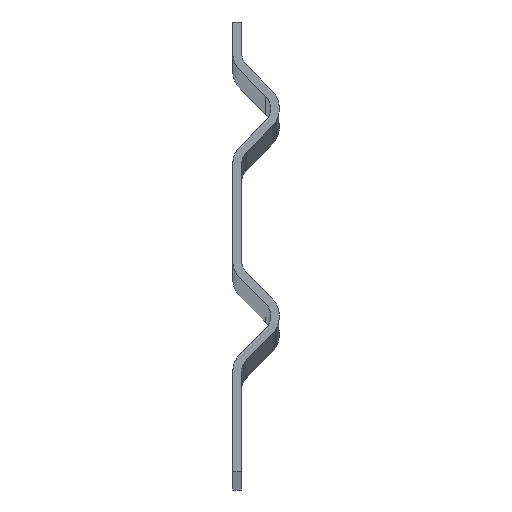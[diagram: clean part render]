
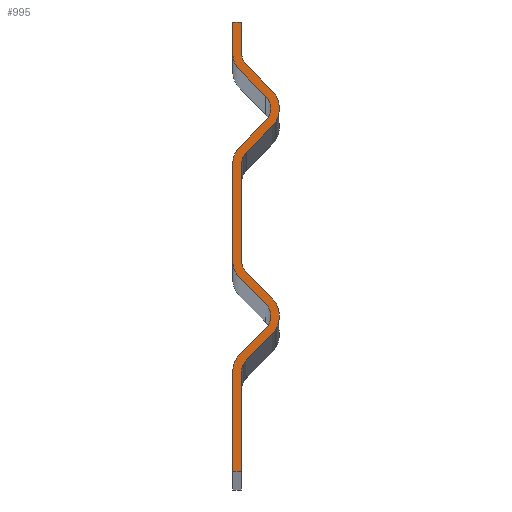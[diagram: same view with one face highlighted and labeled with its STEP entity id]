
A CAD part, top view. The second image highlights one B-rep face of the part: STEP entity #995.
In plain terms, the highlighted planar face has unit normal (0, 0, 1).
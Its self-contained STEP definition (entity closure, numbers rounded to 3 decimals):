
#73=CARTESIAN_POINT('',(0.,28.822,3000.0));
#74=VERTEX_POINT('',#73);
#75=CARTESIAN_POINT('',(2.197,34.126,3000.0));
#76=VERTEX_POINT('',#75);
#77=CARTESIAN_POINT('',(7.5,28.822,3000.0));
#78=DIRECTION('',(0.0,0.0,-1.));
#79=DIRECTION('',(0.707,-0.707,0.0));
#80=AXIS2_PLACEMENT_3D('',#77,#78,#79);
#81=CIRCLE('',#80,7.5);
#82=EDGE_CURVE('',#74,#76,#81,.T.);
#115=CARTESIAN_POINT('',(9.536,41.464,3000.0));
#116=VERTEX_POINT('',#115);
#117=CARTESIAN_POINT('',(2.197,34.126,3000.0));
#118=DIRECTION('',(0.707,0.707,0.0));
#119=VECTOR('',#118,10.379);
#120=LINE('',#117,#119);
#121=EDGE_CURVE('',#76,#116,#120,.T.);
#146=CARTESIAN_POINT('',(9.536,48.536,3000.0));
#147=VERTEX_POINT('',#146);
#148=CARTESIAN_POINT('',(6.,45.0,3000.0));
#149=DIRECTION('',(0.0,0.0,1.));
#150=DIRECTION('',(0.707,-0.707,0.0));
#151=AXIS2_PLACEMENT_3D('',#148,#149,#150);
#152=CIRCLE('',#151,5.);
#153=EDGE_CURVE('',#116,#147,#152,.T.);
#179=CARTESIAN_POINT('',(2.197,55.874,3000.0));
#180=VERTEX_POINT('',#179);
#181=CARTESIAN_POINT('',(9.536,48.536,3000.0));
#182=DIRECTION('',(-0.707,0.707,0.0));
#183=VECTOR('',#182,10.379);
#184=LINE('',#181,#183);
#185=EDGE_CURVE('',#147,#180,#184,.T.);
#210=CARTESIAN_POINT('',(0.,61.178,3000.0));
#211=VERTEX_POINT('',#210);
#212=CARTESIAN_POINT('',(7.5,61.178,3000.0));
#213=DIRECTION('',(0.0,0.0,-1.0));
#214=DIRECTION('',(1.0,0.0,0.0));
#215=AXIS2_PLACEMENT_3D('',#212,#213,#214);
#216=CIRCLE('',#215,7.5);
#217=EDGE_CURVE('',#180,#211,#216,.T.);
#243=CARTESIAN_POINT('',(0.,88.822,3000.0));
#244=VERTEX_POINT('',#243);
#245=CARTESIAN_POINT('',(0.,61.178,3000.0));
#246=DIRECTION('',(0.0,1.0,0.0));
#247=VECTOR('',#246,27.645);
#248=LINE('',#245,#247);
#249=EDGE_CURVE('',#211,#244,#248,.T.);
#274=CARTESIAN_POINT('',(2.197,94.126,3000.0));
#275=VERTEX_POINT('',#274);
#276=CARTESIAN_POINT('',(7.5,88.822,3000.0));
#277=DIRECTION('',(0.0,0.0,-1.0));
#278=DIRECTION('',(0.707,-0.707,0.0));
#279=AXIS2_PLACEMENT_3D('',#276,#277,#278);
#280=CIRCLE('',#279,7.5);
#281=EDGE_CURVE('',#244,#275,#280,.T.);
#307=CARTESIAN_POINT('',(9.536,101.464,3000.0));
#308=VERTEX_POINT('',#307);
#309=CARTESIAN_POINT('',(2.197,94.126,3000.0));
#310=DIRECTION('',(0.707,0.707,0.0));
#311=VECTOR('',#310,10.379);
#312=LINE('',#309,#311);
#313=EDGE_CURVE('',#275,#308,#312,.T.);
#338=CARTESIAN_POINT('',(9.536,108.536,3000.0));
#339=VERTEX_POINT('',#338);
#340=CARTESIAN_POINT('',(6.,105.0,3000.0));
#341=DIRECTION('',(0.0,0.0,1.0));
#342=DIRECTION('',(0.707,-0.707,0.0));
#343=AXIS2_PLACEMENT_3D('',#340,#341,#342);
#344=CIRCLE('',#343,5.0);
#345=EDGE_CURVE('',#308,#339,#344,.T.);
#371=CARTESIAN_POINT('',(2.197,115.874,3000.0));
#372=VERTEX_POINT('',#371);
#373=CARTESIAN_POINT('',(9.536,108.536,3000.0));
#374=DIRECTION('',(-0.707,0.707,0.0));
#375=VECTOR('',#374,10.379);
#376=LINE('',#373,#375);
#377=EDGE_CURVE('',#339,#372,#376,.T.);
#402=CARTESIAN_POINT('',(0.,121.178,3000.0));
#403=VERTEX_POINT('',#402);
#404=CARTESIAN_POINT('',(7.5,121.178,3000.0));
#405=DIRECTION('',(0.0,0.0,-1.0));
#406=DIRECTION('',(1.0,0.0,0.0));
#407=AXIS2_PLACEMENT_3D('',#404,#405,#406);
#408=CIRCLE('',#407,7.5);
#409=EDGE_CURVE('',#372,#403,#408,.T.);
#435=CARTESIAN_POINT('',(0.0,130.0,3000.0));
#436=VERTEX_POINT('',#435);
#437=CARTESIAN_POINT('',(0.,121.178,3000.0));
#438=DIRECTION('',(0.0,1.0,0.0));
#439=VECTOR('',#438,8.822);
#440=LINE('',#437,#439);
#441=EDGE_CURVE('',#403,#436,#440,.T.);
#466=CARTESIAN_POINT('',(2.5,130.0,3000.0));
#467=VERTEX_POINT('',#466);
#468=CARTESIAN_POINT('',(0.0,130.0,3000.0));
#469=DIRECTION('',(1.0,0.0,0.0));
#470=VECTOR('',#469,2.5);
#471=LINE('',#468,#470);
#472=EDGE_CURVE('',#436,#467,#471,.T.);
#497=CARTESIAN_POINT('',(2.5,121.178,3000.0));
#498=VERTEX_POINT('',#497);
#499=CARTESIAN_POINT('',(2.5,130.0,3000.0));
#500=DIRECTION('',(0.0,-1.0,0.0));
#501=VECTOR('',#500,8.822);
#502=LINE('',#499,#501);
#503=EDGE_CURVE('',#467,#498,#502,.T.);
#528=CARTESIAN_POINT('',(3.964,117.642,3000.0));
#529=VERTEX_POINT('',#528);
#530=CARTESIAN_POINT('',(7.5,121.178,3000.0));
#531=DIRECTION('',(0.0,0.0,1.0));
#532=DIRECTION('',(-1.0,0.0,0.0));
#533=AXIS2_PLACEMENT_3D('',#530,#531,#532);
#534=CIRCLE('',#533,5.0);
#535=EDGE_CURVE('',#498,#529,#534,.T.);
#561=CARTESIAN_POINT('',(11.303,110.303,3000.0));
#562=VERTEX_POINT('',#561);
#563=CARTESIAN_POINT('',(3.964,117.642,3000.0));
#564=DIRECTION('',(0.707,-0.707,0.0));
#565=VECTOR('',#564,10.379);
#566=LINE('',#563,#565);
#567=EDGE_CURVE('',#529,#562,#566,.T.);
#592=CARTESIAN_POINT('',(11.303,99.697,3000.0));
#593=VERTEX_POINT('',#592);
#594=CARTESIAN_POINT('',(6.,105.0,3000.0));
#595=DIRECTION('',(0.0,0.0,-1.0));
#596=DIRECTION('',(-0.707,0.707,0.0));
#597=AXIS2_PLACEMENT_3D('',#594,#595,#596);
#598=CIRCLE('',#597,7.5);
#599=EDGE_CURVE('',#562,#593,#598,.T.);
#625=CARTESIAN_POINT('',(3.964,92.358,3000.0));
#626=VERTEX_POINT('',#625);
#627=CARTESIAN_POINT('',(11.303,99.697,3000.0));
#628=DIRECTION('',(-0.707,-0.707,0.0));
#629=VECTOR('',#628,10.379);
#630=LINE('',#627,#629);
#631=EDGE_CURVE('',#593,#626,#630,.T.);
#656=CARTESIAN_POINT('',(2.5,88.822,3000.0));
#657=VERTEX_POINT('',#656);
#658=CARTESIAN_POINT('',(7.5,88.822,3000.0));
#659=DIRECTION('',(0.0,0.0,1.0));
#660=DIRECTION('',(-0.707,0.707,0.0));
#661=AXIS2_PLACEMENT_3D('',#658,#659,#660);
#662=CIRCLE('',#661,5.);
#663=EDGE_CURVE('',#626,#657,#662,.T.);
#689=CARTESIAN_POINT('',(2.5,61.178,3000.0));
#690=VERTEX_POINT('',#689);
#691=CARTESIAN_POINT('',(2.5,88.822,3000.0));
#692=DIRECTION('',(0.0,-1.0,0.0));
#693=VECTOR('',#692,27.645);
#694=LINE('',#691,#693);
#695=EDGE_CURVE('',#657,#690,#694,.T.);
#720=CARTESIAN_POINT('',(3.964,57.642,3000.0));
#721=VERTEX_POINT('',#720);
#722=CARTESIAN_POINT('',(7.5,61.178,3000.0));
#723=DIRECTION('',(0.0,0.0,1.0));
#724=DIRECTION('',(-1.0,0.0,0.0));
#725=AXIS2_PLACEMENT_3D('',#722,#723,#724);
#726=CIRCLE('',#725,5.0);
#727=EDGE_CURVE('',#690,#721,#726,.T.);
#753=CARTESIAN_POINT('',(11.303,50.303,3000.0));
#754=VERTEX_POINT('',#753);
#755=CARTESIAN_POINT('',(3.964,57.642,3000.0));
#756=DIRECTION('',(0.707,-0.707,0.0));
#757=VECTOR('',#756,10.379);
#758=LINE('',#755,#757);
#759=EDGE_CURVE('',#721,#754,#758,.T.);
#784=CARTESIAN_POINT('',(11.303,39.697,3000.0));
#785=VERTEX_POINT('',#784);
#786=CARTESIAN_POINT('',(6.,45.0,3000.0));
#787=DIRECTION('',(0.0,0.0,-1.0));
#788=DIRECTION('',(-0.707,0.707,0.0));
#789=AXIS2_PLACEMENT_3D('',#786,#787,#788);
#790=CIRCLE('',#789,7.5);
#791=EDGE_CURVE('',#754,#785,#790,.T.);
#817=CARTESIAN_POINT('',(3.964,32.358,3000.0));
#818=VERTEX_POINT('',#817);
#819=CARTESIAN_POINT('',(11.303,39.697,3000.0));
#820=DIRECTION('',(-0.707,-0.707,0.0));
#821=VECTOR('',#820,10.379);
#822=LINE('',#819,#821);
#823=EDGE_CURVE('',#785,#818,#822,.T.);
#848=CARTESIAN_POINT('',(2.5,28.822,3000.0));
#849=VERTEX_POINT('',#848);
#850=CARTESIAN_POINT('',(7.5,28.822,3000.0));
#851=DIRECTION('',(0.0,0.0,1.0));
#852=DIRECTION('',(-0.707,0.707,0.0));
#853=AXIS2_PLACEMENT_3D('',#850,#851,#852);
#854=CIRCLE('',#853,5.0);
#855=EDGE_CURVE('',#818,#849,#854,.T.);
#881=CARTESIAN_POINT('',(2.5,0.0,3000.0));
#882=VERTEX_POINT('',#881);
#883=CARTESIAN_POINT('',(2.5,28.822,3000.0));
#884=DIRECTION('',(0.0,-1.0,0.0));
#885=VECTOR('',#884,28.822);
#886=LINE('',#883,#885);
#887=EDGE_CURVE('',#849,#882,#886,.T.);
#912=CARTESIAN_POINT('',(0.0,0.0,3000.0));
#913=VERTEX_POINT('',#912);
#914=CARTESIAN_POINT('',(2.5,0.0,3000.0));
#915=DIRECTION('',(-1.0,0.0,0.0));
#916=VECTOR('',#915,2.5);
#917=LINE('',#914,#916);
#918=EDGE_CURVE('',#882,#913,#917,.T.);
#943=CARTESIAN_POINT('',(0.0,0.0,3000.0));
#944=DIRECTION('',(0.0,1.0,0.0));
#945=VECTOR('',#944,28.822);
#946=LINE('',#943,#945);
#947=EDGE_CURVE('',#913,#74,#946,.T.);
#960=CARTESIAN_POINT('',(4.228,66.082,3000.0));
#961=DIRECTION('',(0.0,0.0,1.0));
#962=DIRECTION('',(1.0,0.0,0.0));
#963=AXIS2_PLACEMENT_3D('',#960,#961,#962);
#964=PLANE('',#963);
#965=ORIENTED_EDGE('',*,*,#82,.F.);
#966=ORIENTED_EDGE('',*,*,#947,.F.);
#967=ORIENTED_EDGE('',*,*,#918,.F.);
#968=ORIENTED_EDGE('',*,*,#887,.F.);
#969=ORIENTED_EDGE('',*,*,#855,.F.);
#970=ORIENTED_EDGE('',*,*,#823,.F.);
#971=ORIENTED_EDGE('',*,*,#791,.F.);
#972=ORIENTED_EDGE('',*,*,#759,.F.);
#973=ORIENTED_EDGE('',*,*,#727,.F.);
#974=ORIENTED_EDGE('',*,*,#695,.F.);
#975=ORIENTED_EDGE('',*,*,#663,.F.);
#976=ORIENTED_EDGE('',*,*,#631,.F.);
#977=ORIENTED_EDGE('',*,*,#599,.F.);
#978=ORIENTED_EDGE('',*,*,#567,.F.);
#979=ORIENTED_EDGE('',*,*,#535,.F.);
#980=ORIENTED_EDGE('',*,*,#503,.F.);
#981=ORIENTED_EDGE('',*,*,#472,.F.);
#982=ORIENTED_EDGE('',*,*,#441,.F.);
#983=ORIENTED_EDGE('',*,*,#409,.F.);
#984=ORIENTED_EDGE('',*,*,#377,.F.);
#985=ORIENTED_EDGE('',*,*,#345,.F.);
#986=ORIENTED_EDGE('',*,*,#313,.F.);
#987=ORIENTED_EDGE('',*,*,#281,.F.);
#988=ORIENTED_EDGE('',*,*,#249,.F.);
#989=ORIENTED_EDGE('',*,*,#217,.F.);
#990=ORIENTED_EDGE('',*,*,#185,.F.);
#991=ORIENTED_EDGE('',*,*,#153,.F.);
#992=ORIENTED_EDGE('',*,*,#121,.F.);
#993=EDGE_LOOP('',(#965,#966,#967,#968,#969,#970,#971,#972,#973,#974,#975,#976,#977,#978,#979,#980,#981,#982,#983,#984,#985,#986,#987,#988,#989,#990,#991,#992));
#994=FACE_OUTER_BOUND('',#993,.T.);
#995=ADVANCED_FACE('',(#994),#964,.T.);
